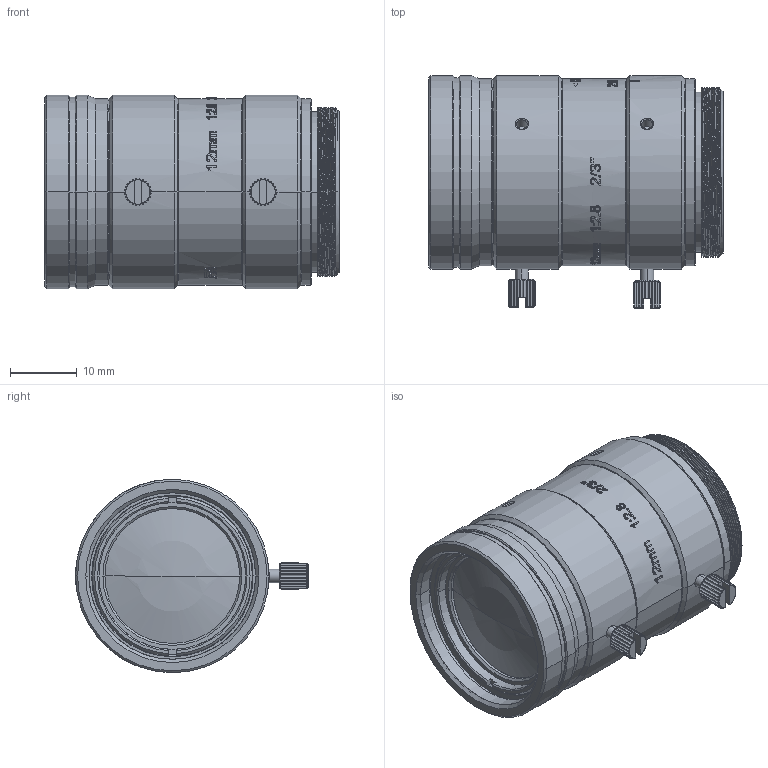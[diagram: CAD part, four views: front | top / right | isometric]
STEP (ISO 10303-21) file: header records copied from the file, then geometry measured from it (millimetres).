
FILE_DESCRIPTION((''),'2;1');
FILE_NAME('ASM0002_ASM','2024-11-04T18:04:41',('Administrator'),(''),'CREO PARAMETRIC BY PTC INC, 2021063','CREO PARAMETRIC BY PTC INC, 2021063','');
FILE_SCHEMA(('CONFIG_CONTROL_DESIGN'));
Length unit declared in the file: millimetre
Products named in the file (25): F12-D9-INF-0412-2_5_1_1_2_1; 001_15_1_1_2_1; C-MOUNT_71_1_1_2_1; FLMC01-102_174_1_1_2_1; PRESSING-RING-1_20_1_1_2_1; FOCUSING-CYLINDER_140_1_1_2_1; ENGRAVING-CYLINDER_155_1_1_2_1; DIAPHRAGM-CYLINDER_71_1_1_2_1; 00_18_1_1_2_1; M2D5X4D5_19_1_1_2_1; OPTICAL-COMPONENT-01_ASM_59_A_4_ASM; 007_16_1_1_2_1; FLMC01-101_132_1_1_2_1; D0134A00_59_1_1_2_1; BMA05003_1_ASM_3_ASM_1_1_ASM_1_ASM; BMA05003_ASM_4_ASM_1_1_ASM_1_ASM; PRESSING-RING-3_27_1_1_2_1; OPTICAL-COMPONENT-02_ASM_46_A_4_ASM; M1640_4_1_1_2_1; POM0_19_1_1_2_1; 20001_2_1_1_2_1; FLMC01--12MM_ASM_251_ASM_1_1_AS_ASM; FLMC01--12MM_ASM_ASM_1_1_2_ASM__ASM; ASM0001_ASM_1_ASM; ASM0002_ASM
Assembly tree (28 placements, depth 8):
  ASM0002_ASM
    ASM0001_ASM_1_ASM
      FLMC01--12MM_ASM_ASM_1_1_2_ASM__ASM
        FLMC01--12MM_ASM_251_ASM_1_1_AS_ASM
          F12-D9-INF-0412-2_5_1_1_2_1
          OPTICAL-COMPONENT-01_ASM_59_A_4_ASM
            001_15_1_1_2_1
            C-MOUNT_71_1_1_2_1
            FLMC01-102_174_1_1_2_1
            PRESSING-RING-1_20_1_1_2_1
            FOCUSING-CYLINDER_140_1_1_2_1
            ENGRAVING-CYLINDER_155_1_1_2_1
            DIAPHRAGM-CYLINDER_71_1_1_2_1
            00_18_1_1_2_1  x2
            M2D5X4D5_19_1_1_2_1  x2
          OPTICAL-COMPONENT-02_ASM_46_A_4_ASM
            007_16_1_1_2_1
            FLMC01-101_132_1_1_2_1
            BMA05003_ASM_4_ASM_1_1_ASM_1_ASM
              BMA05003_1_ASM_3_ASM_1_1_ASM_1_ASM
                D0134A00_59_1_1_2_1
            PRESSING-RING-3_27_1_1_2_1
          M1640_4_1_1_2_1  x3
          POM0_19_1_1_2_1
          20001_2_1_1_2_1
Bounding box: 44.08 x 34.9 x 29 mm (x, y, z)
Volume: 18013.5 mm3; surface area: 22775.9 mm2
Topology: 16 solids, 40 shells, 1719 faces, 4979 edges, 3358 vertices
Faces by surface type: cylinder 545, bspline 458, plane 433, cone 270, sphere 8, extrusion 5
Entity records: 80741 total; most frequent: CARTESIAN_POINT 43493, ORIENTED_EDGE 8420, DIRECTION 6587, EDGE_CURVE 4264, VERTEX_POINT 2898, AXIS2_PLACEMENT_3D 2477, EDGE_LOOP 1638, VECTOR 1633
